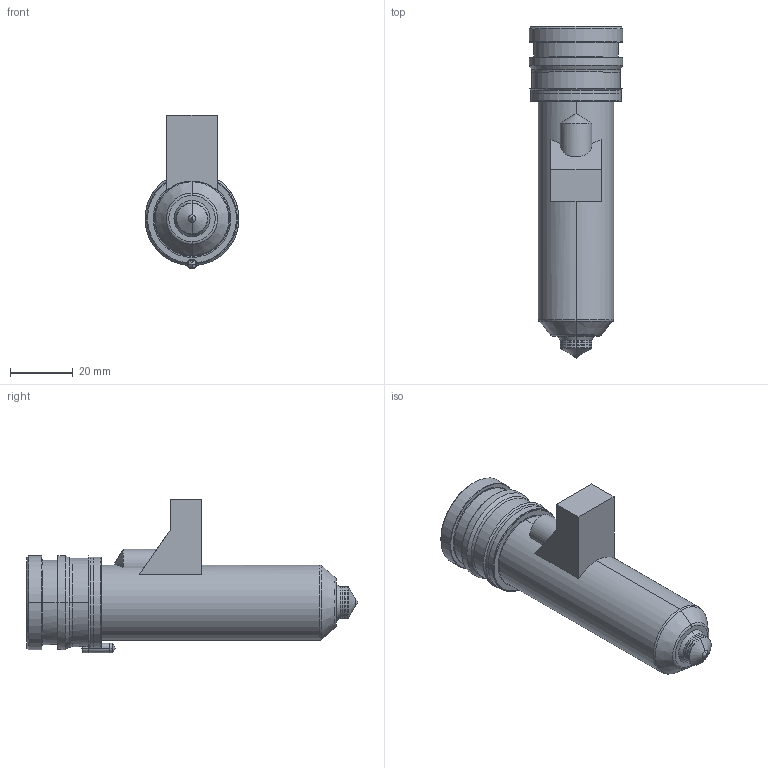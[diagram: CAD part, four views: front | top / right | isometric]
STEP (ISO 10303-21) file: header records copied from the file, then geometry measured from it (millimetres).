
FILE_DESCRIPTION((''),'2;1');
FILE_NAME('MPN-10-29-TS10-086-M','2026-02-05T12:49:07',('UPTIO'),('Thermoplay S.p.A.'),'CREO PARAMETRIC BY PTC INC, 2023494','CREO PARAMETRIC BY PTC INC, 2023494','');
FILE_SCHEMA(('CONFIG_CONTROL_DESIGN','SHAPE_APPEARANCE_LAYERS_GROUPS'));
Length unit declared in the file: millimetre
Products named in the file (1): MPN-10-29-TS10-086-M
Bounding box: 30 x 106 x 49 mm (x, y, z)
Volume: 34169.7 mm3; surface area: 34941.7 mm2
Topology: 3 solids, 5 shells, 542 faces, 1383 edges, 843 vertices
Faces by surface type: cylinder 177, plane 148, bspline 72, torus 67, cone 64, sphere 10, extrusion 4
Entity records: 27871 total; most frequent: CARTESIAN_POINT 12095, ORIENTED_EDGE 2748, DIRECTION 2578, EDGE_CURVE 1374, AXIS2_PLACEMENT_3D 1023, VERTEX_POINT 843, EDGE_LOOP 571, CIRCLE 556
